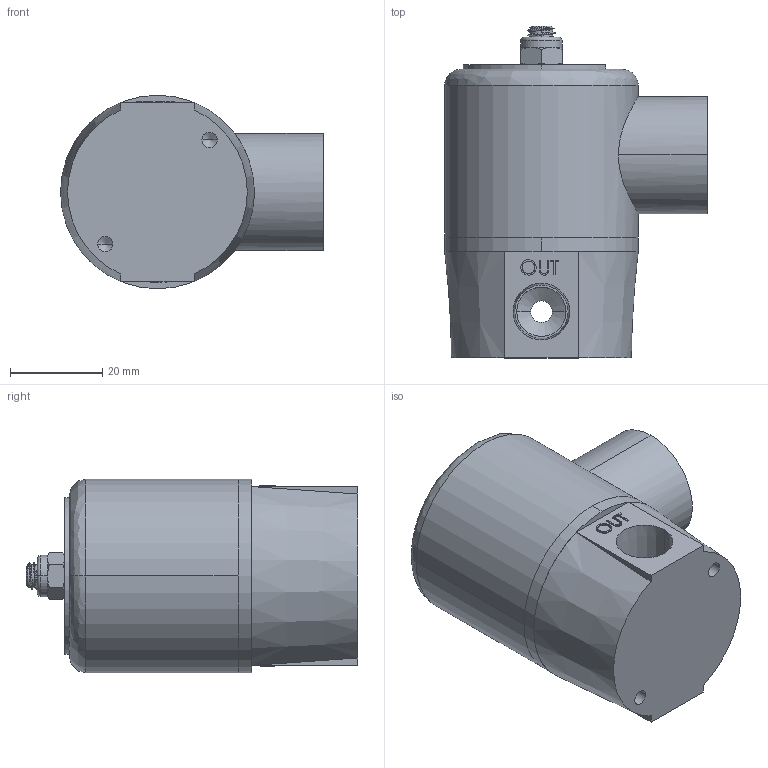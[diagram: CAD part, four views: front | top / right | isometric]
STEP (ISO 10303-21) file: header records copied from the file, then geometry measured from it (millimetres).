
FILE_DESCRIPTION (( 'STEP AP203' ), '1' );
FILE_NAME ('SS2200-02-#.STEP', '2016-02-04T06:21:10', ( 'Sam Lin' ), ( '' ), 'SwSTEP 2.0', 'SolidWorks 2013', '' );
FILE_SCHEMA (( 'CONFIG_CONTROL_DESIGN' ));
Length unit declared in the file: metre
Products named in the file (8): AS2200-1; AS2200-2; AS2200-3; AS2200-4; mark-AS2200; M6螺帽; M6螺栓; SS2200-02-#
Assembly tree (7 placements, depth 2):
  SS2200-02-#
    AS2200-1
    AS2200-2
    AS2200-3
    AS2200-4
    mark-AS2200
    M6螺帽
    M6螺栓
Bounding box: 57 x 72 x 42 mm (x, y, z)
Volume: 41582.7 mm3; surface area: 26149.2 mm2
Topology: 13 solids, 13 shells, 275 faces, 686 edges, 445 vertices
Faces by surface type: plane 133, cylinder 79, cone 32, bspline 31
Entity records: 12603 total; most frequent: CARTESIAN_POINT 5436, ORIENTED_EDGE 1364, DIRECTION 1203, EDGE_CURVE 682, VERTEX_POINT 445, AXIS2_PLACEMENT_3D 407, VECTOR 389, LINE 389
